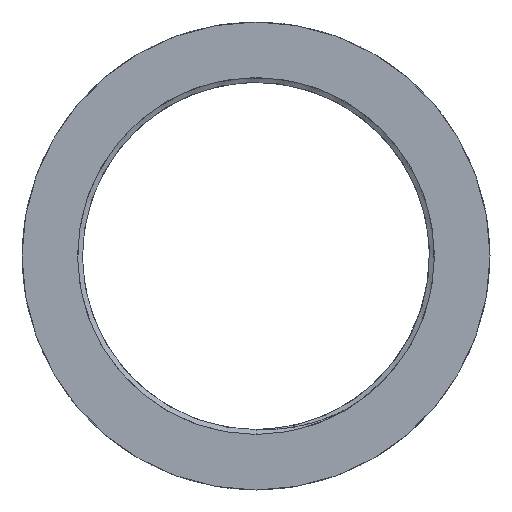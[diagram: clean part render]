
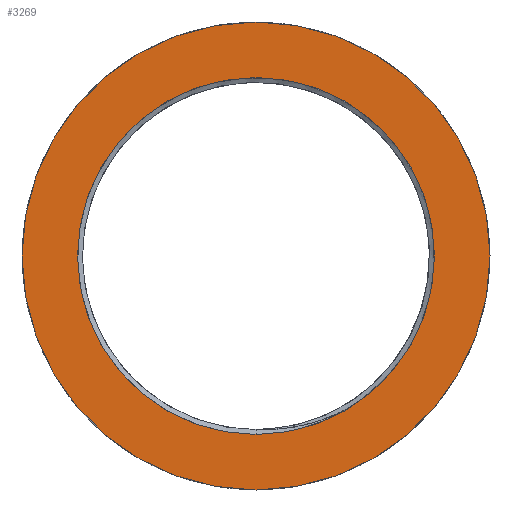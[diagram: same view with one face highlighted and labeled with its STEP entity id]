
A CAD part, front view. The second image highlights one B-rep face of the part: STEP entity #3269.
In plain terms, the highlighted planar face has unit normal (0, -1, 0).
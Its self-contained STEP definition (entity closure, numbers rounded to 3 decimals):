
#2 = ORIENTED_EDGE ( 'NONE', *, *, #1305, .T. ) ;
#154 = DIRECTION ( 'NONE',  ( 0., 0., 1. ) ) ;
#419 = DIRECTION ( 'NONE',  ( 0., 0., 1. ) ) ;
#548 = DIRECTION ( 'NONE',  ( 0., 1., 0. ) ) ;
#968 = CIRCLE ( 'NONE', #2739, 29.175 ) ;
#1172 = FACE_OUTER_BOUND ( 'NONE', #2959, .T. ) ;
#1305 = EDGE_CURVE ( 'NONE', #3623, #3623, #968, .T. ) ;
#1515 = DIRECTION ( 'NONE',  ( 0., 1., 0. ) ) ;
#1674 = AXIS2_PLACEMENT_3D ( 'NONE', #2552, #548, #4357 ) ;
#2032 = AXIS2_PLACEMENT_3D ( 'NONE', #2160, #1515, #419 ) ;
#2160 = CARTESIAN_POINT ( 'NONE',  ( 0., 0., 0. ) ) ;
#2239 = PLANE ( 'NONE',  #1674 ) ;
#2252 = CIRCLE ( 'NONE', #2032, 38.25 ) ;
#2552 = CARTESIAN_POINT ( 'NONE',  ( 0., 0., 0. ) ) ;
#2739 = AXIS2_PLACEMENT_3D ( 'NONE', #3686, #2800, #154 ) ;
#2800 = DIRECTION ( 'NONE',  ( 0., 1., 0. ) ) ;
#2959 = EDGE_LOOP ( 'NONE', ( #4365 ) ) ;
#2963 = CARTESIAN_POINT ( 'NONE',  ( 0., 0., 38.25 ) ) ;
#3269 = ADVANCED_FACE ( 'NONE', ( #1172, #4266 ), #2239, .F. ) ;
#3569 = EDGE_CURVE ( 'NONE', #4012, #4012, #2252, .T. ) ;
#3623 = VERTEX_POINT ( 'NONE', #4307 ) ;
#3686 = CARTESIAN_POINT ( 'NONE',  ( 0., 0., 0. ) ) ;
#3979 = EDGE_LOOP ( 'NONE', ( #2 ) ) ;
#4012 = VERTEX_POINT ( 'NONE', #2963 ) ;
#4266 = FACE_BOUND ( 'NONE', #3979, .T. ) ;
#4307 = CARTESIAN_POINT ( 'NONE',  ( 0., 0., 29.175 ) ) ;
#4357 = DIRECTION ( 'NONE',  ( 0., 0., 1. ) ) ;
#4365 = ORIENTED_EDGE ( 'NONE', *, *, #3569, .F. ) ;
